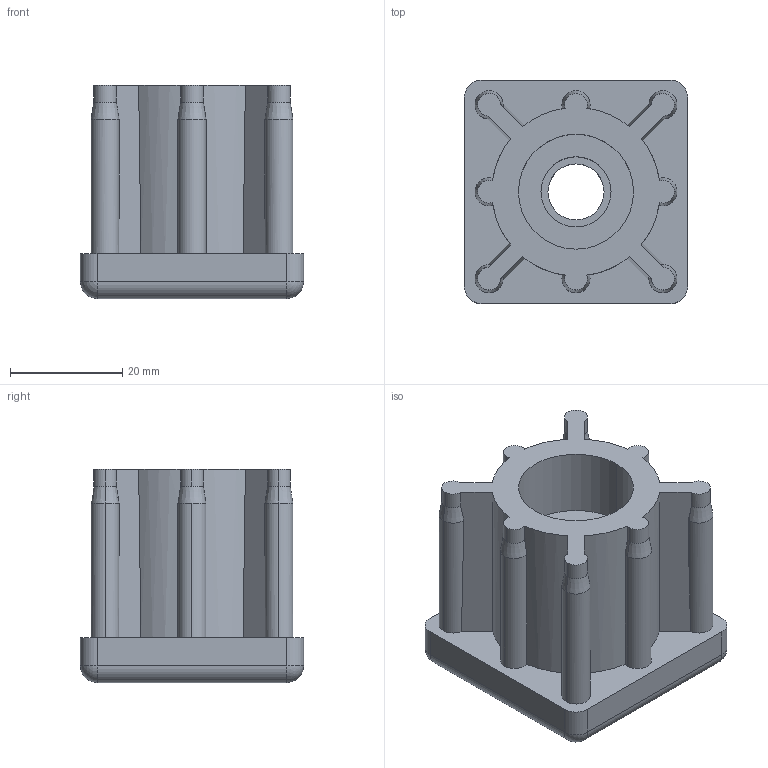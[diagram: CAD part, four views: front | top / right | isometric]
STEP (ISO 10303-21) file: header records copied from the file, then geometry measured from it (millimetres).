
FILE_DESCRIPTION (( 'STEP AP214' ), '1' );
FILE_NAME ('42006840310.STEP', '2020-02-26T10:39:14', ( '' ), ( '' ), 'SwSTEP 2.0', 'SolidWorks 2018', '' );
FILE_SCHEMA (( 'AUTOMOTIVE_DESIGN' ));
Length unit declared in the file: millimetre
Products named in the file (1): 42006840310
Bounding box: 39.8 x 39.8 x 38 mm (x, y, z)
Volume: 32394.1 mm3; surface area: 12422.3 mm2
Topology: 2 solids, 2 shells, 110 faces, 279 edges, 172 vertices
Faces by surface type: cylinder 62, cone 25, plane 19, sphere 4
Entity records: 3384 total; most frequent: CARTESIAN_POINT 720, DIRECTION 577, ORIENTED_EDGE 550, EDGE_CURVE 275, AXIS2_PLACEMENT_3D 239, VERTEX_POINT 172, CIRCLE 128, EDGE_LOOP 117
